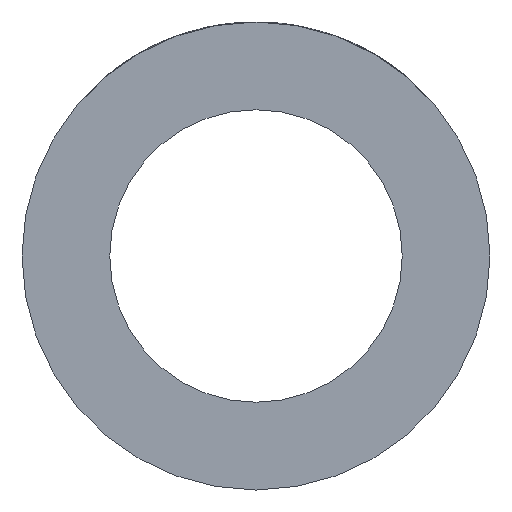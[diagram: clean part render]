
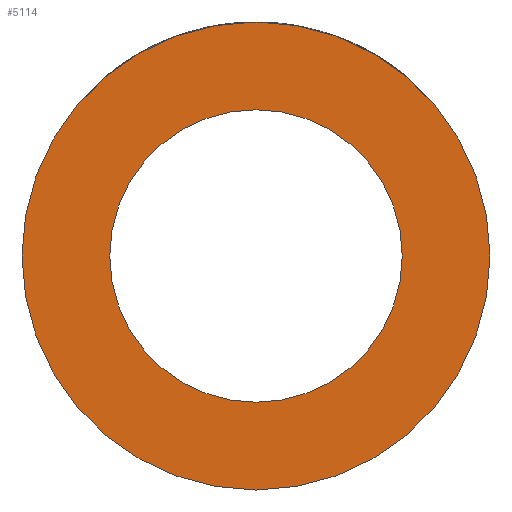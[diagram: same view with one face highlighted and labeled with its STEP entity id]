
A CAD part, left-side view. The second image highlights one B-rep face of the part: STEP entity #5114.
In plain terms, the highlighted planar face has unit normal (-1, 0, 0).
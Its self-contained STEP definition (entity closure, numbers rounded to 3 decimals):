
#117=PLANE('',#5509);
#350=CIRCLE('',#5508,20.);
#351=CIRCLE('',#5510,12.5);
#1531=ORIENTED_EDGE('',*,*,#3077,.T.);
#1532=ORIENTED_EDGE('',*,*,#3076,.F.);
#3076=EDGE_CURVE('',#3849,#3849,#350,.T.);
#3077=EDGE_CURVE('',#3850,#3850,#351,.T.);
#3849=VERTEX_POINT('',#8170);
#3850=VERTEX_POINT('',#8173);
#4365=EDGE_LOOP('',(#1531));
#4366=EDGE_LOOP('',(#1532));
#4734=FACE_BOUND('',#4365,.T.);
#4735=FACE_BOUND('',#4366,.T.);
#5114=ADVANCED_FACE('',(#4734,#4735),#117,.F.);
#5508=AXIS2_PLACEMENT_3D('',#8169,#6030,#6031);
#5509=AXIS2_PLACEMENT_3D('',#8171,#6032,#6033);
#5510=AXIS2_PLACEMENT_3D('',#8172,#6034,#6035);
#6030=DIRECTION('',(1.,0.,0.));
#6031=DIRECTION('',(0.,0.,-1.));
#6032=DIRECTION('',(1.,0.,0.));
#6033=DIRECTION('',(0.,0.,-1.));
#6034=DIRECTION('',(1.,0.,0.));
#6035=DIRECTION('',(0.,0.,-1.));
#8169=CARTESIAN_POINT('',(-56.,0.,0.));
#8170=CARTESIAN_POINT('',(-56.,0.,-20.));
#8171=CARTESIAN_POINT('',(-56.,0.,0.));
#8172=CARTESIAN_POINT('',(-56.,0.,0.));
#8173=CARTESIAN_POINT('',(-56.,0.,-12.5));
